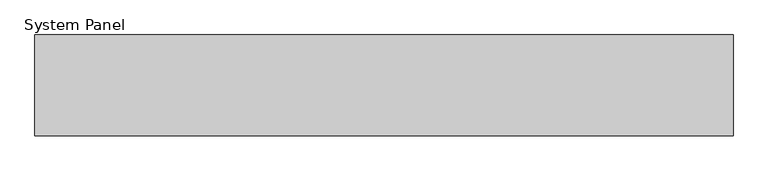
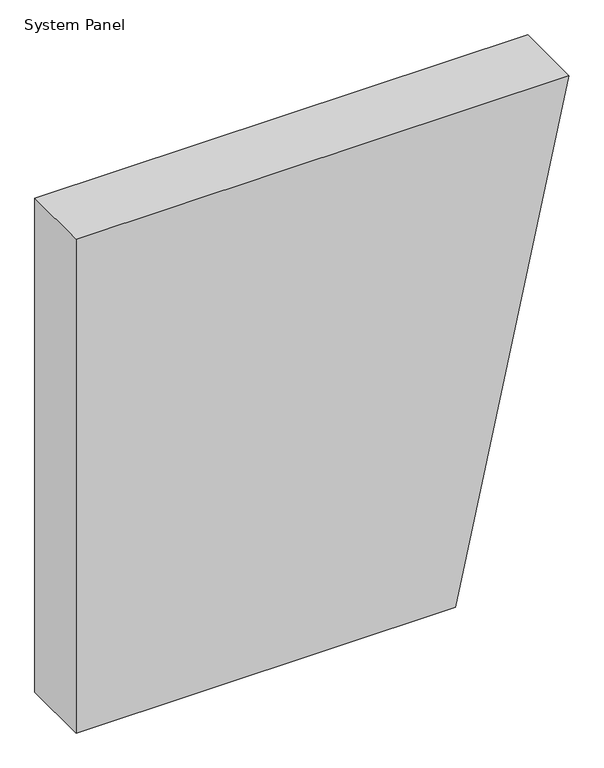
"""IFC4 building model written with IfcOpenShell, lengths in millimetres: plate geometry, System Panel : MetecnoPanel 150mm Horizontal - Plain Astro - PIR."""

from ifc_helpers import new_model, si_unit, frame, origin, place, context, project, spatial, polyline, outline, extrude, source, transform, mapped, element, save


def system_panel_b43a76cf(model_context):
    return source(origin(), model_context, "Body", "SweptSolid", [
        extrude(outline(polyline([(0.0, -519.5661783), (0.0, 280.4338217), (1100.0, 519.5661783), (1100.0, -519.5661783), (0.0, -519.5661783)])), frame((0.0, -150.0, 0.0), z_axis=(0.0, 1.0, 0.0), x_axis=(0.0, 0.0, 1.0)), (0.0, 0.0, 1.0), 150.0),
    ])


if __name__ == "__main__":
    model = new_model("IFC4")
    model_context = context("Model", 3, world=origin())
    ifc_project = project(units=[si_unit("LENGTHUNIT", "METRE", prefix="MILLI")], contexts=[model_context])
    site = spatial("IfcSite", under=ifc_project)
    building = spatial("IfcBuilding", under=site)
    placement = place(None, origin())
    system_panel_shape = system_panel_b43a76cf(model_context)
    element("IfcPlate", 1, ObjectType="System Panel : MetecnoPanel 150mm Horizontal - Plain Astro - PIR", at=placement, inside=building, context=model_context, shape_type="MappedRepresentation", body=[
        mapped(system_panel_shape, transform((0.0, 0.0, 0.0), x_axis=(1.0, 0.0, 0.0), y_axis=(0.0, 1.0, 0.0), z_axis=(0.0, 0.0, 1.0))),
    ])
    save(model, "model.ifc")
